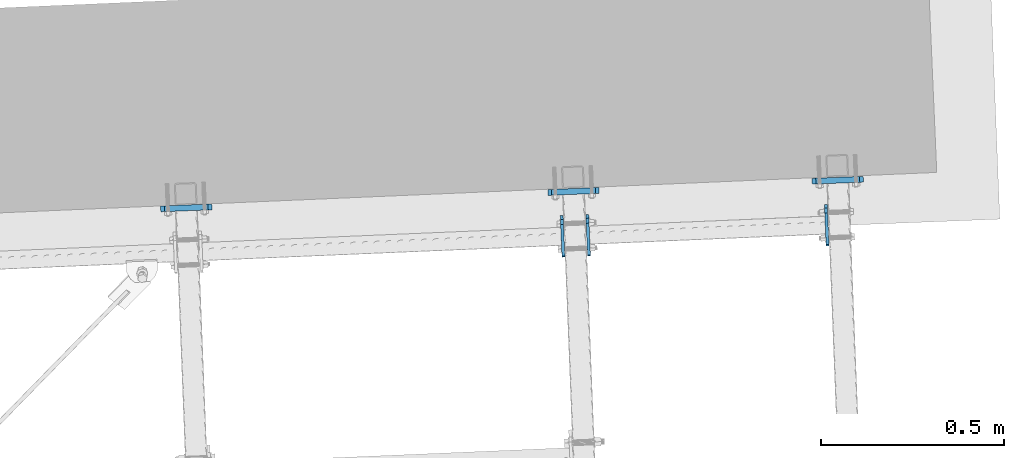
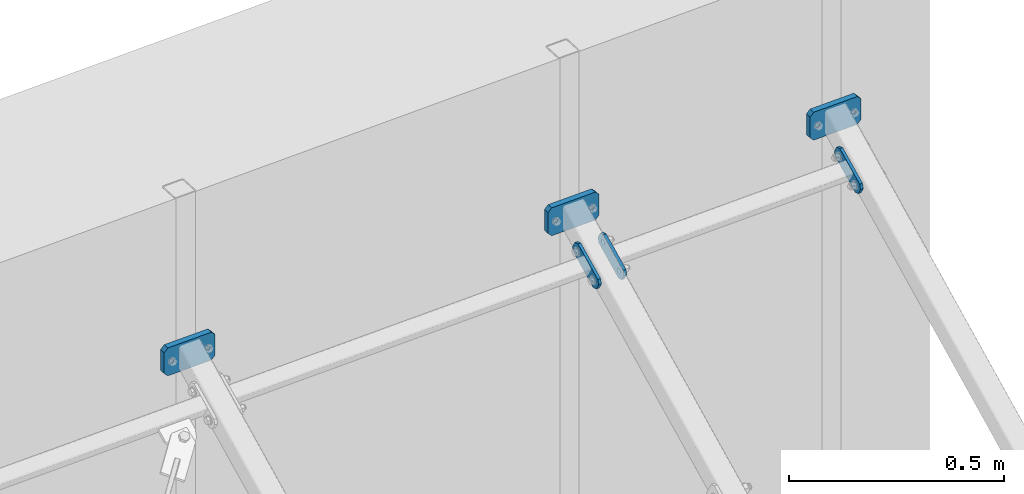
# One storey, part 67 of 288: 6 plates, 36 openings.
"""IFC2X3 building model written with IfcOpenShell, lengths in millimetres."""

import ifcopenshell
import ifcopenshell.guid

model = None  # the IFC model being written
_history = None  # IfcOwnerHistory: only IFC2X3 demands one
_inside = {}  # id of a spatial element -> (the spatial element, [elements in it])
_under = {}  # id of a project, library or spatial element -> (it, [spatial elements below it])
_declared = {}  # id of a project -> (the project, [libraries it declares])
_typed = {}  # id of a type object -> (the type object, [elements of that type])
_made_of = {}  # id of a material, layer set ... -> (it, [elements and type objects made of it])


def new_model(schema):
    """Start an empty IFC model of exactly this schema.

    Asked for "IFC4X3", IfcOpenShell would pick the latest addendum, in which some entities
    have other attributes; the version numbers below select the first issue.
    IFC2X3 requires an IfcOwnerHistory on every rooted entity: one is made here for all.
    """
    global model, _history
    if schema == "IFC4X3":
        model = ifcopenshell.file(schema_version=(4, 3, 0, 0))
    else:
        model = ifcopenshell.file(schema=schema)
    _inside.clear()
    _under.clear()
    _declared.clear()
    _typed.clear()
    _made_of.clear()
    _history = None
    if model.schema == "IFC2X3":
        org = make("IfcOrganization", Name="unknown")
        user = make(
            "IfcPersonAndOrganization",
            ThePerson=make("IfcPerson", FamilyName="unknown"),
            TheOrganization=org,
        )
        app = make(
            "IfcApplication",
            ApplicationDeveloper=org,
            Version="unknown",
            ApplicationFullName="unknown",
            ApplicationIdentifier="unknown",
        )
        _history = make(
            "IfcOwnerHistory",
            OwningUser=user,
            OwningApplication=app,
            ChangeAction="ADDED",
            CreationDate=0,
        )
    return model


def make(cls, **values):
    """One entity of the class cls with the attributes given. An attribute that is None is left unset."""
    return model.create_entity(
        cls, **{name: value for name, value in values.items() if value is not None}
    )


def entity(cls, *values):
    """Any entity or typed value of the class cls, its attributes in the order of the schema. None: left unset."""
    e = model.create_entity(cls)
    for i, value in enumerate(values):
        if value is not None:
            e[i] = value
    return e


def rooted(cls, **values):
    """An entity with a GlobalId (a new one), such as an element, a storey or a relation."""
    return make(cls, GlobalId=ifcopenshell.guid.new(), OwnerHistory=_history, **values)


def si_unit(unit_type, name, prefix=None):
    """IfcSIUnit, for example si_unit("LENGTHUNIT", "METRE", prefix="MILLI")."""
    return make("IfcSIUnit", UnitType=unit_type, Prefix=prefix, Name=name)


def converted_unit(unit_type, name, factor, base, dimensions=None, offset=None):
    """IfcConversionBasedUnit, such as the inch: factor (a typed value) times the base unit."""
    return make(
        "IfcConversionBasedUnit"
        if offset is None
        else "IfcConversionBasedUnitWithOffset",
        ConversionOffset=offset,
        Dimensions=None
        if dimensions is None
        else entity("IfcDimensionalExponents", *dimensions),
        UnitType=unit_type,
        Name=name,
        ConversionFactor=make(
            "IfcMeasureWithUnit", ValueComponent=factor, UnitComponent=base
        ),
    )


def assignment(units):
    """IfcUnitAssignment: the units of a project."""
    return None if units is None else make("IfcUnitAssignment", Units=units)


def point(xyz):
    """IfcCartesianPoint."""
    return None if xyz is None else make("IfcCartesianPoint", Coordinates=xyz)


def direction(xyz):
    """IfcDirection."""
    return None if xyz is None else make("IfcDirection", DirectionRatios=xyz)


def frame(location, z_axis=None, x_axis=None):
    """IfcAxis2Placement3D, a coordinate frame: its origin and axes. An axis left out is left unset."""
    return make(
        "IfcAxis2Placement3D",
        Location=point(location),
        Axis=direction(z_axis),
        RefDirection=direction(x_axis),
    )


def frame_2d(location, x_axis=None):
    """IfcAxis2Placement2D, a coordinate frame in the plane: its origin and x axis."""
    return make(
        "IfcAxis2Placement2D", Location=point(location), RefDirection=direction(x_axis)
    )


def origin():
    """The frame at (0, 0, 0) with its axes left unset."""
    return frame((0.0, 0.0, 0.0))


def origin_with_axes():
    """The frame at (0, 0, 0) with the z axis (0, 0, 1) and the x axis (1, 0, 0) written out."""
    return frame((0.0, 0.0, 0.0), z_axis=(0.0, 0.0, 1.0), x_axis=(1.0, 0.0, 0.0))


def origin_2d_with_axis():
    """The frame at (0, 0) in the plane with the x axis (1, 0) written out."""
    return frame_2d((0.0, 0.0), x_axis=(1.0, 0.0))


def place(relative_to, where):
    """IfcLocalPlacement: puts the frame where relative to a parent placement (None: the world)."""
    return make(
        "IfcLocalPlacement", PlacementRelTo=relative_to, RelativePlacement=where
    )


def context(
    kind, dimensions, precision=None, world=None, true_north=None, identifier=None
):
    """IfcGeometricRepresentationContext, for example the 3D "Model" context."""
    return make(
        "IfcGeometricRepresentationContext",
        ContextIdentifier=identifier,
        ContextType=kind,
        CoordinateSpaceDimension=dimensions,
        Precision=precision,
        WorldCoordinateSystem=world,
        TrueNorth=true_north,
    )


def project(units=None, contexts=None):
    """IfcProject with its units and contexts."""
    return rooted(
        "IfcProject",
        Name="project",
        RepresentationContexts=contexts,
        UnitsInContext=assignment(units),
    )


def spatial(cls, under=None, at=None, **own):
    """A site, building, storey or space (cls), placed at a placement, below another one or the project."""
    s = rooted(cls, ObjectPlacement=at, **own)
    if under is not None:
        _under.setdefault(under.id(), (under, []))[1].append(s)
    return s


def polyline(points):
    """IfcPolyline through the points."""
    return make("IfcPolyline", Points=[point(p) for p in points])


def circle_curve(where, radius):
    """IfcCircle in the frame where."""
    return make("IfcCircle", Position=where, Radius=radius)


def line_curve(start, along, magnitude):
    """IfcLine from a point along a vector."""
    return make(
        "IfcLine",
        Pnt=point(start),
        Dir=make("IfcVector", Orientation=direction(along), Magnitude=magnitude),
    )


def trimmed(basis, trim1, trim2, sense, master):
    """IfcTrimmedCurve: the piece of a basis curve between two trims."""
    return make(
        "IfcTrimmedCurve",
        BasisCurve=basis,
        Trim1=trim1,
        Trim2=trim2,
        SenseAgreement=sense,
        MasterRepresentation=master,
    )


def segment(curve, same_sense, transition):
    """IfcCompositeCurveSegment."""
    return make(
        "IfcCompositeCurveSegment",
        Transition=transition,
        SameSense=same_sense,
        ParentCurve=curve,
    )


def composite_curve(segments, self_intersect=None):
    """IfcCompositeCurve: segments joined end to end."""
    return make("IfcCompositeCurve", Segments=segments, SelfIntersect=self_intersect)


def profile(cls, at=None, kind="AREA", **sizes):
    """A parametric profile (cls). Its sizes go by their IFC names, for example OverallWidth=200.0."""
    return make(cls, ProfileType=kind, Position=at, **sizes)


def circle(**sizes):
    """IfcCircleProfileDef."""
    return profile("IfcCircleProfileDef", **sizes)


def outline(outer, holes=None, kind="AREA"):
    """IfcArbitraryClosedProfileDef: a profile drawn as a closed curve; with holes, ...WithVoids."""
    if holes is None:
        return make("IfcArbitraryClosedProfileDef", ProfileType=kind, OuterCurve=outer)
    return make(
        "IfcArbitraryProfileDefWithVoids",
        ProfileType=kind,
        OuterCurve=outer,
        InnerCurves=holes,
    )


def extrude(swept, where, along, depth):
    """IfcExtrudedAreaSolid: the profile swept, set in the frame where, extruded along a direction by depth."""
    return make(
        "IfcExtrudedAreaSolid",
        SweptArea=swept,
        Position=where,
        ExtrudedDirection=direction(along),
        Depth=depth,
    )


def shape(context_of_items, identifier, shape_type, items):
    """IfcShapeRepresentation: the items that make up one representation, for example the "Body"."""
    return make(
        "IfcShapeRepresentation",
        ContextOfItems=context_of_items,
        RepresentationIdentifier=identifier,
        RepresentationType=shape_type,
        Items=items,
    )


def material(Name=None, Category=None):
    """IfcMaterial."""
    return make("IfcMaterial", Name=Name, Category=Category)


def layer(
    of_material, thickness, ventilated=None, Name=None, Category=None, Priority=None
):
    """IfcMaterialLayer: one layer of a wall or slab, of a material (None: an air gap)."""
    return make(
        "IfcMaterialLayer",
        Material=of_material,
        LayerThickness=thickness,
        IsVentilated=ventilated,
        Name=Name,
        Category=Category,
        Priority=Priority,
    )


def layer_set(layers, Name=None):
    """IfcMaterialLayerSet."""
    return make("IfcMaterialLayerSet", MaterialLayers=layers, LayerSetName=Name)


def made_of(thing, what):
    """Note that an element or type object is made of a material, layer set ...; save() writes the relation."""
    if what is not None:
        _made_of.setdefault(what.id(), (what, []))[1].append(thing)
    return thing


def element(
    cls,
    number,
    at=None,
    inside=None,
    cuts=None,
    type_object=None,
    material=None,
    context=None,
    identifier="Body",
    shape_type=None,
    held_by="IfcProductDefinitionShape",
    body=None,
    shapes=None,
    **own,
):
    """One element of the class cls, such as IfcWall. Its Tag is "e" and its number.

    at: its placement. inside: the storey or other place that contains it. cuts: it is an
    opening in that element (IfcRelVoidsElement). A single representation is given by context,
    identifier, shape_type and body (its items); several are given by shapes. held_by: the class
    of the entity that holds the representations. save() writes the other relations.
    """
    e = rooted(cls, Tag="e%d" % number, ObjectPlacement=at, **own)
    if body is not None:
        shapes = [shape(context, identifier, shape_type, body)]
    if shapes is not None:
        e.Representation = make(held_by, Representations=shapes)
    if inside is not None:
        _inside.setdefault(inside.id(), (inside, []))[1].append(e)
    if cuts is not None:
        rooted(
            "IfcRelVoidsElement", RelatingBuildingElement=cuts, RelatedOpeningElement=e
        )
    if type_object is not None:
        _typed.setdefault(type_object.id(), (type_object, []))[1].append(e)
    return made_of(e, material)


def aggregate(whole, parts):
    """IfcRelAggregates: a whole, such as a stair, and the parts it consists of."""
    return rooted("IfcRelAggregates", RelatingObject=whole, RelatedObjects=parts)


def save(model, path):
    """Write the relations noted so far, then the file.

    IfcRelAggregates (storeys below a building ...), IfcRelContainedInSpatialStructure (elements
    in a storey), IfcRelDefinesByType, IfcRelAssociatesMaterial and IfcRelDeclares: one each for
    every whole, place, type object, material and project.
    """
    for whole, parts in _under.values():
        aggregate(whole, parts)
    for where, things in _inside.values():
        rooted(
            "IfcRelContainedInSpatialStructure",
            RelatedElements=things,
            RelatingStructure=where,
        )
    for kind, things in _typed.values():
        rooted("IfcRelDefinesByType", RelatedObjects=things, RelatingType=kind)
    for what, things in _made_of.values():
        rooted("IfcRelAssociatesMaterial", RelatedObjects=things, RelatingMaterial=what)
    for by, libraries in _declared.values():
        rooted("IfcRelDeclares", RelatingContext=by, RelatedDefinitions=libraries)
    model.write(path)


model = new_model("IFC2X3")

# Units and contexts
model_context = context("Model", 3, precision=1e-09, world=origin_with_axes())
ifc_project = project(units=[si_unit("LENGTHUNIT", "METRE", prefix="MILLI"), si_unit("AREAUNIT", "SQUARE_METRE"), si_unit("VOLUMEUNIT", "CUBIC_METRE"), converted_unit("PLANEANGLEUNIT", "DEGREE", entity("IfcPlaneAngleMeasure", 0.01745329), si_unit("PLANEANGLEUNIT", "RADIAN"), dimensions=[0, 0, 0, 0, 0, 0, 0])], contexts=[model_context])

# Site, building, storey
site_placement = place(None, origin_with_axes())
site = spatial("IfcSite", under=ifc_project, at=site_placement, Name="Remont ?wietlik?w nad MC w NCPP w Opolu", CompositionType="ELEMENT")
building_placement = place(site_placement, origin_with_axes())
building = spatial("IfcBuilding", under=site, at=building_placement, Name="Konstrukcja 1", CompositionType="ELEMENT")
storey_placement = place(building_placement, origin_with_axes())
storey = spatial("IfcBuildingStorey", under=building, at=storey_placement, Name="Default Storey", CompositionType="ELEMENT", Elevation=0.0)

# Plate, openings
ifc_material = material(Name="S235")
ifc_layer_1 = layer(ifc_material, 8.0)
ifc_layer_set_1 = layer_set([ifc_layer_1], Name="S235")
plate_1_placement = place(None, frame((9800.952796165, 15801.499793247, 1174.330477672), z_axis=(-0.999102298, -0.042361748, 0.000284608), x_axis=(0.021561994, -0.502733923, 0.864172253)))
plate_1 = element("IfcPlate", 1, at=plate_1_placement, inside=storey, material=ifc_layer_set_1, Name="-", ObjectType="-", context=model_context, shape_type="SweptSolid", body=[
    extrude(outline(polyline([(0.0, 0.0), (40.0, 0.0), (40.0, 120.0), (0.0, 120.0), (0.0, 0.0)])), origin_with_axes(), (0.0, 0.0, 1.0), 8.0),
])
opening_1_placement = place(plate_1_placement, frame((0.0, 0.0, -0.01), z_axis=(0.0, 0.0, 1.0), x_axis=(1.0, 0.0, 0.0)))
element("IfcOpeningElement", 2, at=opening_1_placement, cuts=plate_1, ObjectType="Opening", context=model_context, shape_type="SweptSolid", body=[
    extrude(outline(composite_curve([segment(trimmed(line_curve((0.0, 0.0), (1.0, 0.0), 10.0), [point((0.0, 0.0))], [point((10.0, 0.0))], True, "CARTESIAN"), True, "CONTINUOUS"), segment(trimmed(circle_curve(frame_2d((10.0, 10.0), x_axis=(-1.0, 0.0)), 10.0), [point((10.0, 0.0))], [point((0.0, 10.0))], False, "CARTESIAN"), True, "CONTINUOUS"), segment(trimmed(line_curve((0.0, 10.0), (0.0, -1.0), 10.0), [point((0.0, 10.0))], [point((0.0, 0.0))], True, "CARTESIAN"), True, "CONTINUOUS")], self_intersect=False)), origin(), (0.0, 0.0, 1.0), 8.02),
])
opening_2_placement = place(plate_1_placement, frame((0.0, 0.0, -0.01), z_axis=(0.0, 0.0, 1.0), x_axis=(1.0, 0.0, 0.0)))
element("IfcOpeningElement", 3, at=opening_2_placement, cuts=plate_1, ObjectType="Opening", context=model_context, shape_type="SweptSolid", body=[
    extrude(outline(composite_curve([segment(trimmed(line_curve((40.0, 0.0), (0.0, 1.0), 10.0), [point((40.0, 0.0))], [point((40.0, 10.0))], True, "CARTESIAN"), True, "CONTINUOUS"), segment(trimmed(circle_curve(frame_2d((30.0, 10.0), x_axis=(-1.0, 0.0)), 10.0), [point((40.0, 10.0))], [point((30.0, 0.0))], False, "CARTESIAN"), True, "CONTINUOUS"), segment(trimmed(line_curve((30.0, 0.0), (1.0, 0.0), 10.0), [point((30.0, 0.0))], [point((40.0, 0.0))], True, "CARTESIAN"), True, "CONTINUOUS")], self_intersect=False)), origin(), (0.0, 0.0, 1.0), 8.02),
])
opening_3_placement = place(plate_1_placement, frame((0.0, 0.0, -0.01), z_axis=(0.0, 0.0, 1.0), x_axis=(1.0, 0.0, 0.0)))
element("IfcOpeningElement", 4, at=opening_3_placement, cuts=plate_1, ObjectType="Opening", context=model_context, shape_type="SweptSolid", body=[
    extrude(outline(composite_curve([segment(trimmed(line_curve((40.0, 120.0), (-1.0, 0.0), 10.0), [point((40.0, 120.0))], [point((30.0, 120.0))], True, "CARTESIAN"), True, "CONTINUOUS"), segment(trimmed(circle_curve(frame_2d((30.0, 110.0), x_axis=(-1.0, 0.0)), 10.0), [point((30.0, 120.0))], [point((40.0, 110.0))], False, "CARTESIAN"), True, "CONTINUOUS"), segment(trimmed(line_curve((40.0, 110.0), (0.0, 1.0), 10.0), [point((40.0, 110.0))], [point((40.0, 120.0))], True, "CARTESIAN"), True, "CONTINUOUS")], self_intersect=False)), origin(), (0.0, 0.0, 1.0), 8.02),
])
opening_4_placement = place(plate_1_placement, frame((0.0, 0.0, -0.01), z_axis=(0.0, 0.0, 1.0), x_axis=(1.0, 0.0, 0.0)))
element("IfcOpeningElement", 5, at=opening_4_placement, cuts=plate_1, ObjectType="Opening", context=model_context, shape_type="SweptSolid", body=[
    extrude(outline(composite_curve([segment(trimmed(line_curve((0.0, 120.0), (0.0, -1.0), 10.0), [point((0.0, 120.0))], [point((0.0, 110.0))], True, "CARTESIAN"), True, "CONTINUOUS"), segment(trimmed(circle_curve(frame_2d((10.0, 110.0), x_axis=(-1.0, 0.0)), 10.0), [point((0.0, 110.0))], [point((10.0, 120.0))], False, "CARTESIAN"), True, "CONTINUOUS"), segment(trimmed(line_curve((10.0, 120.0), (-1.0, 0.0), 10.0), [point((10.0, 120.0))], [point((0.0, 120.0))], True, "CARTESIAN"), True, "CONTINUOUS")], self_intersect=False)), origin(), (0.0, 0.0, 1.0), 8.02),
])
opening_5_placement = place(plate_1_placement, frame((20.0, 60.0, -0.5), z_axis=(0.0, 0.0, 1.0), x_axis=(1.0, 0.0, 0.0)))
element("IfcOpeningElement", 6, at=opening_5_placement, cuts=plate_1, ObjectType="Opening", context=model_context, shape_type="SweptSolid", body=[
    extrude(circle(Radius=7.001, at=frame_2d((0.0, 40.0), x_axis=(1.0, 0.0))), origin(), (0.0, 0.0, 1.0), 9.0),
])
opening_6_placement = place(plate_1_placement, frame((20.0, 60.0, -0.5), z_axis=(0.0, 0.0, 1.0), x_axis=(1.0, 0.0, 0.0)))
element("IfcOpeningElement", 7, at=opening_6_placement, cuts=plate_1, ObjectType="Opening", context=model_context, shape_type="SweptSolid", body=[
    extrude(circle(Radius=7.001, at=frame_2d((0.0, -40.0), x_axis=(1.0, 0.0))), origin(), (0.0, 0.0, 1.0), 9.0),
])

plate_2_placement = place(None, frame((9731.015635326, 15798.534470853, 1174.350400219), z_axis=(-0.999102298, -0.042361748, 0.000284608), x_axis=(0.021561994, -0.502733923, 0.864172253)))
plate_2 = element("IfcPlate", 8, at=plate_2_placement, inside=storey, material=ifc_layer_set_1, Name="-", ObjectType="-", context=model_context, shape_type="SweptSolid", body=[
    extrude(outline(polyline([(0.0, 0.0), (40.0, 0.0), (40.0, 120.0), (0.0, 120.0), (0.0, 0.0)])), origin_with_axes(), (0.0, 0.0, 1.0), 8.0),
])
opening_7_placement = place(plate_2_placement, frame((0.0, 0.0, -0.01), z_axis=(0.0, 0.0, 1.0), x_axis=(1.0, 0.0, 0.0)))
element("IfcOpeningElement", 9, at=opening_7_placement, cuts=plate_2, ObjectType="Opening", context=model_context, shape_type="SweptSolid", body=[
    extrude(outline(composite_curve([segment(trimmed(line_curve((40.0, 0.0), (0.0, 1.0), 10.0), [point((40.0, 0.0))], [point((40.0, 10.0))], True, "CARTESIAN"), True, "CONTINUOUS"), segment(trimmed(circle_curve(frame_2d((30.0, 10.0), x_axis=(-1.0, 0.0)), 10.0), [point((40.0, 10.0))], [point((30.0, 0.0))], False, "CARTESIAN"), True, "CONTINUOUS"), segment(trimmed(line_curve((30.0, 0.0), (1.0, 0.0), 10.0), [point((30.0, 0.0))], [point((40.0, 0.0))], True, "CARTESIAN"), True, "CONTINUOUS")], self_intersect=False)), origin(), (0.0, 0.0, 1.0), 8.02),
])
opening_8_placement = place(plate_2_placement, frame((0.0, 0.0, -0.01), z_axis=(0.0, 0.0, 1.0), x_axis=(1.0, 0.0, 0.0)))
element("IfcOpeningElement", 10, at=opening_8_placement, cuts=plate_2, ObjectType="Opening", context=model_context, shape_type="SweptSolid", body=[
    extrude(outline(composite_curve([segment(trimmed(line_curve((0.0, 0.0), (1.0, 0.0), 10.0), [point((0.0, 0.0))], [point((10.0, 0.0))], True, "CARTESIAN"), True, "CONTINUOUS"), segment(trimmed(circle_curve(frame_2d((10.0, 10.0), x_axis=(-1.0, 0.0)), 10.0), [point((10.0, 0.0))], [point((0.0, 10.0))], False, "CARTESIAN"), True, "CONTINUOUS"), segment(trimmed(line_curve((0.0, 10.0), (0.0, -1.0), 10.0), [point((0.0, 10.0))], [point((0.0, 0.0))], True, "CARTESIAN"), True, "CONTINUOUS")], self_intersect=False)), origin(), (0.0, 0.0, 1.0), 8.02),
])
opening_9_placement = place(plate_2_placement, frame((0.0, 0.0, -0.01), z_axis=(0.0, 0.0, 1.0), x_axis=(1.0, 0.0, 0.0)))
element("IfcOpeningElement", 11, at=opening_9_placement, cuts=plate_2, ObjectType="Opening", context=model_context, shape_type="SweptSolid", body=[
    extrude(outline(composite_curve([segment(trimmed(line_curve((40.0, 120.0), (-1.0, 0.0), 10.0), [point((40.0, 120.0))], [point((30.0, 120.0))], True, "CARTESIAN"), True, "CONTINUOUS"), segment(trimmed(circle_curve(frame_2d((30.0, 110.0), x_axis=(-1.0, 0.0)), 10.0), [point((30.0, 120.0))], [point((40.0, 110.0))], False, "CARTESIAN"), True, "CONTINUOUS"), segment(trimmed(line_curve((40.0, 110.0), (0.0, 1.0), 10.0), [point((40.0, 110.0))], [point((40.0, 120.0))], True, "CARTESIAN"), True, "CONTINUOUS")], self_intersect=False)), origin(), (0.0, 0.0, 1.0), 8.02),
])
opening_10_placement = place(plate_2_placement, frame((0.0, 0.0, -0.01), z_axis=(0.0, 0.0, 1.0), x_axis=(1.0, 0.0, 0.0)))
element("IfcOpeningElement", 12, at=opening_10_placement, cuts=plate_2, ObjectType="Opening", context=model_context, shape_type="SweptSolid", body=[
    extrude(outline(composite_curve([segment(trimmed(line_curve((0.0, 120.0), (0.0, -1.0), 10.0), [point((0.0, 120.0))], [point((0.0, 110.0))], True, "CARTESIAN"), True, "CONTINUOUS"), segment(trimmed(circle_curve(frame_2d((10.0, 110.0), x_axis=(-1.0, 0.0)), 10.0), [point((0.0, 110.0))], [point((10.0, 120.0))], False, "CARTESIAN"), True, "CONTINUOUS"), segment(trimmed(line_curve((10.0, 120.0), (-1.0, 0.0), 10.0), [point((10.0, 120.0))], [point((0.0, 120.0))], True, "CARTESIAN"), True, "CONTINUOUS")], self_intersect=False)), origin(), (0.0, 0.0, 1.0), 8.02),
])
opening_11_placement = place(plate_2_placement, frame((20.0, 60.0, -0.5), z_axis=(0.0, 0.0, 1.0), x_axis=(1.0, 0.0, 0.0)))
element("IfcOpeningElement", 13, at=opening_11_placement, cuts=plate_2, ObjectType="Opening", context=model_context, shape_type="SweptSolid", body=[
    extrude(circle(Radius=7.001, at=frame_2d((0.0, 40.0), x_axis=(1.0, 0.0))), origin(), (0.0, 0.0, 1.0), 9.0),
])
opening_12_placement = place(plate_2_placement, frame((20.0, 60.0, -0.5), z_axis=(0.0, 0.0, 1.0), x_axis=(1.0, 0.0, 0.0)))
element("IfcOpeningElement", 14, at=opening_12_placement, cuts=plate_2, ObjectType="Opening", context=model_context, shape_type="SweptSolid", body=[
    extrude(circle(Radius=7.001, at=frame_2d((0.0, -40.0), x_axis=(1.0, 0.0))), origin(), (0.0, 0.0, 1.0), 9.0),
])

plate_3_placement = place(None, frame((10453.514337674, 15829.168279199, 1174.144586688), z_axis=(-0.999102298, -0.042361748, 0.000284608), x_axis=(0.021561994, -0.502733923, 0.864172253)))
plate_3 = element("IfcPlate", 15, at=plate_3_placement, inside=storey, material=ifc_layer_set_1, Name="-", ObjectType="-", context=model_context, shape_type="SweptSolid", body=[
    extrude(outline(polyline([(0.0, 0.0), (40.0, 0.0), (40.0, 120.0), (0.0, 120.0), (0.0, 0.0)])), origin_with_axes(), (0.0, 0.0, 1.0), 8.0),
])
opening_13_placement = place(plate_3_placement, frame((0.0, 0.0, -0.01), z_axis=(0.0, 0.0, 1.0), x_axis=(1.0, 0.0, 0.0)))
element("IfcOpeningElement", 16, at=opening_13_placement, cuts=plate_3, ObjectType="Opening", context=model_context, shape_type="SweptSolid", body=[
    extrude(outline(composite_curve([segment(trimmed(line_curve((40.0, 0.0), (0.0, 1.0), 10.0), [point((40.0, 0.0))], [point((40.0, 10.0))], True, "CARTESIAN"), True, "CONTINUOUS"), segment(trimmed(circle_curve(frame_2d((30.0, 10.0), x_axis=(-1.0, 0.0)), 10.0), [point((40.0, 10.0))], [point((30.0, 0.0))], False, "CARTESIAN"), True, "CONTINUOUS"), segment(trimmed(line_curve((30.0, 0.0), (1.0, 0.0), 10.0), [point((30.0, 0.0))], [point((40.0, 0.0))], True, "CARTESIAN"), True, "CONTINUOUS")], self_intersect=False)), origin(), (0.0, 0.0, 1.0), 8.02),
])
opening_14_placement = place(plate_3_placement, frame((0.0, 0.0, -0.01), z_axis=(0.0, 0.0, 1.0), x_axis=(1.0, 0.0, 0.0)))
element("IfcOpeningElement", 17, at=opening_14_placement, cuts=plate_3, ObjectType="Opening", context=model_context, shape_type="SweptSolid", body=[
    extrude(outline(composite_curve([segment(trimmed(line_curve((0.0, 0.0), (1.0, 0.0), 10.0), [point((0.0, 0.0))], [point((10.0, 0.0))], True, "CARTESIAN"), True, "CONTINUOUS"), segment(trimmed(circle_curve(frame_2d((10.0, 10.0), x_axis=(-1.0, 0.0)), 10.0), [point((10.0, 0.0))], [point((0.0, 10.0))], False, "CARTESIAN"), True, "CONTINUOUS"), segment(trimmed(line_curve((0.0, 10.0), (0.0, -1.0), 10.0), [point((0.0, 10.0))], [point((0.0, 0.0))], True, "CARTESIAN"), True, "CONTINUOUS")], self_intersect=False)), origin(), (0.0, 0.0, 1.0), 8.02),
])
opening_15_placement = place(plate_3_placement, frame((0.0, 0.0, -0.01), z_axis=(0.0, 0.0, 1.0), x_axis=(1.0, 0.0, 0.0)))
element("IfcOpeningElement", 18, at=opening_15_placement, cuts=plate_3, ObjectType="Opening", context=model_context, shape_type="SweptSolid", body=[
    extrude(outline(composite_curve([segment(trimmed(line_curve((40.0, 120.0), (-1.0, 0.0), 10.0), [point((40.0, 120.0))], [point((30.0, 120.0))], True, "CARTESIAN"), True, "CONTINUOUS"), segment(trimmed(circle_curve(frame_2d((30.0, 110.0), x_axis=(-1.0, 0.0)), 10.0), [point((30.0, 120.0))], [point((40.0, 110.0))], False, "CARTESIAN"), True, "CONTINUOUS"), segment(trimmed(line_curve((40.0, 110.0), (0.0, 1.0), 10.0), [point((40.0, 110.0))], [point((40.0, 120.0))], True, "CARTESIAN"), True, "CONTINUOUS")], self_intersect=False)), origin(), (0.0, 0.0, 1.0), 8.02),
])
opening_16_placement = place(plate_3_placement, frame((0.0, 0.0, -0.01), z_axis=(0.0, 0.0, 1.0), x_axis=(1.0, 0.0, 0.0)))
element("IfcOpeningElement", 19, at=opening_16_placement, cuts=plate_3, ObjectType="Opening", context=model_context, shape_type="SweptSolid", body=[
    extrude(outline(composite_curve([segment(trimmed(line_curve((0.0, 120.0), (0.0, -1.0), 10.0), [point((0.0, 120.0))], [point((0.0, 110.0))], True, "CARTESIAN"), True, "CONTINUOUS"), segment(trimmed(circle_curve(frame_2d((10.0, 110.0), x_axis=(-1.0, 0.0)), 10.0), [point((0.0, 110.0))], [point((10.0, 120.0))], False, "CARTESIAN"), True, "CONTINUOUS"), segment(trimmed(line_curve((10.0, 120.0), (-1.0, 0.0), 10.0), [point((10.0, 120.0))], [point((0.0, 120.0))], True, "CARTESIAN"), True, "CONTINUOUS")], self_intersect=False)), origin(), (0.0, 0.0, 1.0), 8.02),
])
opening_17_placement = place(plate_3_placement, frame((12.999, 100.0, 8.5), z_axis=(0.0, 0.0, 1.0), x_axis=(1.0, 0.0, 0.0)))
element("IfcOpeningElement", 20, at=opening_17_placement, cuts=plate_3, ObjectType="Opening", context=model_context, shape_type="SweptSolid", body=[
    extrude(circle(Radius=7.001, at=frame_2d((7.001, 0.0), x_axis=(1.0, 0.0))), origin(), (0.0, 0.0, -1.0), 9.0),
])
opening_18_placement = place(plate_3_placement, frame((12.999, 20.0, 8.5), z_axis=(0.0, 0.0, 1.0), x_axis=(1.0, 0.0, 0.0)))
element("IfcOpeningElement", 21, at=opening_18_placement, cuts=plate_3, ObjectType="Opening", context=model_context, shape_type="SweptSolid", body=[
    extrude(circle(Radius=7.001, at=frame_2d((7.001, 0.0), x_axis=(1.0, 0.0))), origin(), (0.0, 0.0, -1.0), 9.0),
])

ifc_layer_2 = layer(ifc_material, 16.0)
ifc_layer_set_2 = layer_set([ifc_layer_2], Name="S235")
plate_4_placement = place(None, frame((8766.288773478, 15912.973330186, 1326.553510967), z_axis=(-0.039393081, 0.999223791, 0.0), x_axis=(0.0, 0.0, -1.0)))
plate_4 = element("IfcPlate", 22, at=plate_4_placement, inside=storey, material=ifc_layer_set_2, Name="Baseplate", ObjectType="Baseplate", context=model_context, shape_type="SweptSolid", body=[
    extrude(outline(polyline([(0.0, 0.0), (79.430667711, 0.0), (79.430667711, 140.0), (0.0, 140.0), (0.0, 0.0)])), origin_with_axes(), (0.0, 0.0, 1.0), 16.0),
])
opening_19_placement = place(plate_4_placement, frame((0.0, 0.0, -0.01), z_axis=(0.0, 0.0, 1.0), x_axis=(1.0, 0.0, 0.0)))
element("IfcOpeningElement", 23, at=opening_19_placement, cuts=plate_4, ObjectType="Opening", context=model_context, shape_type="SweptSolid", body=[
    extrude(outline(composite_curve([segment(trimmed(line_curve((0.0, 140.0), (0.0, -1.0), 10.0), [point((0.0, 140.0))], [point((0.0, 130.0))], True, "CARTESIAN"), True, "CONTINUOUS"), segment(trimmed(circle_curve(frame_2d((10.0, 130.0), x_axis=(-1.0, 0.0)), 10.0), [point((0.0, 130.0))], [point((10.0, 140.0))], False, "CARTESIAN"), True, "CONTINUOUS"), segment(trimmed(line_curve((10.0, 140.0), (-1.0, 0.0), 10.0), [point((10.0, 140.0))], [point((0.0, 140.0))], True, "CARTESIAN"), True, "CONTINUOUS")], self_intersect=False)), origin(), (0.0, 0.0, 1.0), 16.02),
])
opening_20_placement = place(plate_4_placement, frame((0.0, 0.0, -0.01), z_axis=(0.0, 0.0, 1.0), x_axis=(1.0, 0.0, 0.0)))
element("IfcOpeningElement", 24, at=opening_20_placement, cuts=plate_4, ObjectType="Opening", context=model_context, shape_type="SweptSolid", body=[
    extrude(outline(composite_curve([segment(trimmed(line_curve((0.0, 0.0), (1.0, 0.0), 10.0), [point((0.0, 0.0))], [point((10.0, 0.0))], True, "CARTESIAN"), True, "CONTINUOUS"), segment(trimmed(circle_curve(frame_2d((10.0, 10.0), x_axis=(-1.0, 0.0)), 10.0), [point((10.0, 0.0))], [point((0.0, 10.0))], False, "CARTESIAN"), True, "CONTINUOUS"), segment(trimmed(line_curve((0.0, 10.0), (0.0, -1.0), 10.0), [point((0.0, 10.0))], [point((0.0, 0.0))], True, "CARTESIAN"), True, "CONTINUOUS")], self_intersect=False)), origin(), (0.0, 0.0, 1.0), 16.02),
])
opening_21_placement = place(plate_4_placement, frame((0.0, 0.0, -0.01), z_axis=(0.0, 0.0, 1.0), x_axis=(1.0, 0.0, 0.0)))
element("IfcOpeningElement", 25, at=opening_21_placement, cuts=plate_4, ObjectType="Opening", context=model_context, shape_type="SweptSolid", body=[
    extrude(outline(composite_curve([segment(trimmed(line_curve((79.430667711, 0.0), (0.0, 1.0), 10.0), [point((79.430667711, 0.0))], [point((79.430667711, 10.0))], True, "CARTESIAN"), True, "CONTINUOUS"), segment(trimmed(circle_curve(frame_2d((69.430667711, 10.0), x_axis=(-1.0, 0.0)), 10.0), [point((79.430667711, 10.0))], [point((69.430667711, 0.0))], False, "CARTESIAN"), True, "CONTINUOUS"), segment(trimmed(line_curve((69.430667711, 0.0), (1.0, 0.0), 10.0), [point((69.430667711, 0.0))], [point((79.430667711, 0.0))], True, "CARTESIAN"), True, "CONTINUOUS")], self_intersect=False)), origin(), (0.0, 0.0, 1.0), 16.02),
])
opening_22_placement = place(plate_4_placement, frame((0.0, 0.0, -0.01), z_axis=(0.0, 0.0, 1.0), x_axis=(1.0, 0.0, 0.0)))
element("IfcOpeningElement", 26, at=opening_22_placement, cuts=plate_4, ObjectType="Opening", context=model_context, shape_type="SweptSolid", body=[
    extrude(outline(composite_curve([segment(trimmed(line_curve((79.430667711, 140.0), (-1.0, 0.0), 10.0), [point((79.430667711, 140.0))], [point((69.430667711, 140.0))], True, "CARTESIAN"), True, "CONTINUOUS"), segment(trimmed(circle_curve(frame_2d((69.430667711, 130.0), x_axis=(-1.0, 0.0)), 10.0), [point((69.430667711, 140.0))], [point((79.430667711, 130.0))], False, "CARTESIAN"), True, "CONTINUOUS"), segment(trimmed(line_curve((79.430667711, 130.0), (0.0, 1.0), 10.0), [point((79.430667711, 130.0))], [point((79.430667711, 140.0))], True, "CARTESIAN"), True, "CONTINUOUS")], self_intersect=False)), origin(), (0.0, 0.0, 1.0), 16.02),
])
opening_23_placement = place(plate_4_placement, frame((39.715333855, 20.0, 16.5), z_axis=(0.0, 0.0, -1.0), x_axis=(1.0, 0.0, 0.0)))
element("IfcOpeningElement", 27, at=opening_23_placement, cuts=plate_4, ObjectType="Opening", context=model_context, shape_type="SweptSolid", body=[
    extrude(circle(Radius=6.001, at=origin_2d_with_axis()), origin(), (0.0, 0.0, 1.0), 17.0),
])
opening_24_placement = place(plate_4_placement, frame((39.715333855, 120.0, 16.5), z_axis=(0.0, 0.0, -1.0), x_axis=(1.0, 0.0, 0.0)))
element("IfcOpeningElement", 28, at=opening_24_placement, cuts=plate_4, ObjectType="Opening", context=model_context, shape_type="SweptSolid", body=[
    extrude(circle(Radius=6.001, at=origin_2d_with_axis()), origin(), (0.0, 0.0, 1.0), 17.0),
])

plate_5_placement = place(None, frame((9825.337251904, 15957.876785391, 1327.071181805), z_axis=(-0.039393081, 0.999223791, 0.0), x_axis=(0.0, 0.0, -1.0)))
plate_5 = element("IfcPlate", 29, at=plate_5_placement, inside=storey, material=ifc_layer_set_2, Name="Baseplate", ObjectType="Baseplate", context=model_context, shape_type="SweptSolid", body=[
    extrude(outline(polyline([(0.0, 0.0), (79.438342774, 0.0), (79.438342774, 140.0), (0.0, 140.0), (0.0, 0.0)])), origin_with_axes(), (0.0, 0.0, 1.0), 16.0),
])
opening_25_placement = place(plate_5_placement, frame((0.0, 0.0, -0.01), z_axis=(0.0, 0.0, 1.0), x_axis=(1.0, 0.0, 0.0)))
element("IfcOpeningElement", 30, at=opening_25_placement, cuts=plate_5, ObjectType="Opening", context=model_context, shape_type="SweptSolid", body=[
    extrude(outline(composite_curve([segment(trimmed(line_curve((0.0, 140.0), (0.0, -1.0), 10.0), [point((0.0, 140.0))], [point((0.0, 130.0))], True, "CARTESIAN"), True, "CONTINUOUS"), segment(trimmed(circle_curve(frame_2d((10.0, 130.0), x_axis=(-1.0, 0.0)), 10.0), [point((0.0, 130.0))], [point((10.0, 140.0))], False, "CARTESIAN"), True, "CONTINUOUS"), segment(trimmed(line_curve((10.0, 140.0), (-1.0, 0.0), 10.0), [point((10.0, 140.0))], [point((0.0, 140.0))], True, "CARTESIAN"), True, "CONTINUOUS")], self_intersect=False)), origin(), (0.0, 0.0, 1.0), 16.02),
])
opening_26_placement = place(plate_5_placement, frame((0.0, 0.0, -0.01), z_axis=(0.0, 0.0, 1.0), x_axis=(1.0, 0.0, 0.0)))
element("IfcOpeningElement", 31, at=opening_26_placement, cuts=plate_5, ObjectType="Opening", context=model_context, shape_type="SweptSolid", body=[
    extrude(outline(composite_curve([segment(trimmed(line_curve((79.438342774, 140.0), (-1.0, 0.0), 10.0), [point((79.438342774, 140.0))], [point((69.438342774, 140.0))], True, "CARTESIAN"), True, "CONTINUOUS"), segment(trimmed(circle_curve(frame_2d((69.438342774, 130.0), x_axis=(-1.0, 0.0)), 10.0), [point((69.438342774, 140.0))], [point((79.438342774, 130.0))], False, "CARTESIAN"), True, "CONTINUOUS"), segment(trimmed(line_curve((79.438342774, 130.0), (0.0, 1.0), 10.0), [point((79.438342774, 130.0))], [point((79.438342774, 140.0))], True, "CARTESIAN"), True, "CONTINUOUS")], self_intersect=False)), origin(), (0.0, 0.0, 1.0), 16.02),
])
opening_27_placement = place(plate_5_placement, frame((0.0, 0.0, -0.01), z_axis=(0.0, 0.0, 1.0), x_axis=(1.0, 0.0, 0.0)))
element("IfcOpeningElement", 32, at=opening_27_placement, cuts=plate_5, ObjectType="Opening", context=model_context, shape_type="SweptSolid", body=[
    extrude(outline(composite_curve([segment(trimmed(line_curve((0.0, 0.0), (1.0, 0.0), 10.0), [point((0.0, 0.0))], [point((10.0, 0.0))], True, "CARTESIAN"), True, "CONTINUOUS"), segment(trimmed(circle_curve(frame_2d((10.0, 10.0), x_axis=(-1.0, 0.0)), 10.0), [point((10.0, 0.0))], [point((0.0, 10.0))], False, "CARTESIAN"), True, "CONTINUOUS"), segment(trimmed(line_curve((0.0, 10.0), (0.0, -1.0), 10.0), [point((0.0, 10.0))], [point((0.0, 0.0))], True, "CARTESIAN"), True, "CONTINUOUS")], self_intersect=False)), origin(), (0.0, 0.0, 1.0), 16.02),
])
opening_28_placement = place(plate_5_placement, frame((0.0, 0.0, -0.01), z_axis=(0.0, 0.0, 1.0), x_axis=(1.0, 0.0, 0.0)))
element("IfcOpeningElement", 33, at=opening_28_placement, cuts=plate_5, ObjectType="Opening", context=model_context, shape_type="SweptSolid", body=[
    extrude(outline(composite_curve([segment(trimmed(line_curve((79.438342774, 0.0), (0.0, 1.0), 10.0), [point((79.438342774, 0.0))], [point((79.438342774, 10.0))], True, "CARTESIAN"), True, "CONTINUOUS"), segment(trimmed(circle_curve(frame_2d((69.438342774, 10.0), x_axis=(-1.0, 0.0)), 10.0), [point((79.438342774, 10.0))], [point((69.438342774, 0.0))], False, "CARTESIAN"), True, "CONTINUOUS"), segment(trimmed(line_curve((69.438342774, 0.0), (1.0, 0.0), 10.0), [point((69.438342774, 0.0))], [point((79.438342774, 0.0))], True, "CARTESIAN"), True, "CONTINUOUS")], self_intersect=False)), origin(), (0.0, 0.0, 1.0), 16.02),
])
opening_29_placement = place(plate_5_placement, frame((39.719171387, 20.0, 16.5), z_axis=(0.0, 0.0, -1.0), x_axis=(1.0, 0.0, 0.0)))
element("IfcOpeningElement", 34, at=opening_29_placement, cuts=plate_5, ObjectType="Opening", context=model_context, shape_type="SweptSolid", body=[
    extrude(circle(Radius=6.001, at=origin_2d_with_axis()), origin(), (0.0, 0.0, 1.0), 17.0),
])
opening_30_placement = place(plate_5_placement, frame((39.719171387, 120.0, 16.5), z_axis=(0.0, 0.0, -1.0), x_axis=(1.0, 0.0, 0.0)))
element("IfcOpeningElement", 35, at=opening_30_placement, cuts=plate_5, ObjectType="Opening", context=model_context, shape_type="SweptSolid", body=[
    extrude(circle(Radius=6.001, at=origin_2d_with_axis()), origin(), (0.0, 0.0, 1.0), 17.0),
])

plate_6_placement = place(None, frame((10548.186976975, 15988.525477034, 1327.488897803), z_axis=(-0.039393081, 0.999223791, 0.0), x_axis=(0.0, 0.0, -1.0)))
plate_6 = element("IfcPlate", 36, at=plate_6_placement, inside=storey, material=ifc_layer_set_2, Name="Baseplate", ObjectType="Baseplate", context=model_context, shape_type="SweptSolid", body=[
    extrude(outline(polyline([(0.0, 0.0), (79.444537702, 0.0), (79.444537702, 140.0), (0.0, 140.0), (0.0, 0.0)])), origin_with_axes(), (0.0, 0.0, 1.0), 16.0),
])
opening_31_placement = place(plate_6_placement, frame((0.0, 0.0, -0.01), z_axis=(0.0, 0.0, 1.0), x_axis=(1.0, 0.0, 0.0)))
element("IfcOpeningElement", 37, at=opening_31_placement, cuts=plate_6, ObjectType="Opening", context=model_context, shape_type="SweptSolid", body=[
    extrude(outline(composite_curve([segment(trimmed(line_curve((0.0, 140.0), (0.0, -1.0), 10.0), [point((0.0, 140.0))], [point((0.0, 130.0))], True, "CARTESIAN"), True, "CONTINUOUS"), segment(trimmed(circle_curve(frame_2d((10.0, 130.0), x_axis=(-1.0, 0.0)), 10.0), [point((0.0, 130.0))], [point((10.0, 140.0))], False, "CARTESIAN"), True, "CONTINUOUS"), segment(trimmed(line_curve((10.0, 140.0), (-1.0, 0.0), 10.0), [point((10.0, 140.0))], [point((0.0, 140.0))], True, "CARTESIAN"), True, "CONTINUOUS")], self_intersect=False)), origin(), (0.0, 0.0, 1.0), 16.02),
])
opening_32_placement = place(plate_6_placement, frame((0.0, 0.0, -0.01), z_axis=(0.0, 0.0, 1.0), x_axis=(1.0, 0.0, 0.0)))
element("IfcOpeningElement", 38, at=opening_32_placement, cuts=plate_6, ObjectType="Opening", context=model_context, shape_type="SweptSolid", body=[
    extrude(outline(composite_curve([segment(trimmed(line_curve((0.0, 0.0), (1.0, 0.0), 10.0), [point((0.0, 0.0))], [point((10.0, 0.0))], True, "CARTESIAN"), True, "CONTINUOUS"), segment(trimmed(circle_curve(frame_2d((10.0, 10.0), x_axis=(-1.0, 0.0)), 10.0), [point((10.0, 0.0))], [point((0.0, 10.0))], False, "CARTESIAN"), True, "CONTINUOUS"), segment(trimmed(line_curve((0.0, 10.0), (0.0, -1.0), 10.0), [point((0.0, 10.0))], [point((0.0, 0.0))], True, "CARTESIAN"), True, "CONTINUOUS")], self_intersect=False)), origin(), (0.0, 0.0, 1.0), 16.02),
])
opening_33_placement = place(plate_6_placement, frame((0.0, 0.0, -0.01), z_axis=(0.0, 0.0, 1.0), x_axis=(1.0, 0.0, 0.0)))
element("IfcOpeningElement", 39, at=opening_33_placement, cuts=plate_6, ObjectType="Opening", context=model_context, shape_type="SweptSolid", body=[
    extrude(outline(composite_curve([segment(trimmed(line_curve((79.444537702, 0.0), (0.0, 1.0), 10.0), [point((79.444537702, 0.0))], [point((79.444537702, 10.0))], True, "CARTESIAN"), True, "CONTINUOUS"), segment(trimmed(circle_curve(frame_2d((69.444537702, 10.0), x_axis=(-1.0, 0.0)), 10.0), [point((79.444537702, 10.0))], [point((69.444537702, 0.0))], False, "CARTESIAN"), True, "CONTINUOUS"), segment(trimmed(line_curve((69.444537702, 0.0), (1.0, 0.0), 10.0), [point((69.444537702, 0.0))], [point((79.444537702, 0.0))], True, "CARTESIAN"), True, "CONTINUOUS")], self_intersect=False)), origin(), (0.0, 0.0, 1.0), 16.02),
])
opening_34_placement = place(plate_6_placement, frame((0.0, 0.0, -0.01), z_axis=(0.0, 0.0, 1.0), x_axis=(1.0, 0.0, 0.0)))
element("IfcOpeningElement", 40, at=opening_34_placement, cuts=plate_6, ObjectType="Opening", context=model_context, shape_type="SweptSolid", body=[
    extrude(outline(composite_curve([segment(trimmed(line_curve((79.444537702, 140.0), (-1.0, 0.0), 10.0), [point((79.444537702, 140.0))], [point((69.444537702, 140.0))], True, "CARTESIAN"), True, "CONTINUOUS"), segment(trimmed(circle_curve(frame_2d((69.444537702, 130.0), x_axis=(-1.0, 0.0)), 10.0), [point((69.444537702, 140.0))], [point((79.444537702, 130.0))], False, "CARTESIAN"), True, "CONTINUOUS"), segment(trimmed(line_curve((79.444537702, 130.0), (0.0, 1.0), 10.0), [point((79.444537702, 130.0))], [point((79.444537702, 140.0))], True, "CARTESIAN"), True, "CONTINUOUS")], self_intersect=False)), origin(), (0.0, 0.0, 1.0), 16.02),
])
opening_35_placement = place(plate_6_placement, frame((39.722268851, 20.0, 16.5), z_axis=(0.0, 0.0, -1.0), x_axis=(1.0, 0.0, 0.0)))
element("IfcOpeningElement", 41, at=opening_35_placement, cuts=plate_6, ObjectType="Opening", context=model_context, shape_type="SweptSolid", body=[
    extrude(circle(Radius=6.001, at=origin_2d_with_axis()), origin(), (0.0, 0.0, 1.0), 17.0),
])
opening_36_placement = place(plate_6_placement, frame((39.722268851, 120.0, 16.5), z_axis=(0.0, 0.0, -1.0), x_axis=(1.0, 0.0, 0.0)))
element("IfcOpeningElement", 42, at=opening_36_placement, cuts=plate_6, ObjectType="Opening", context=model_context, shape_type="SweptSolid", body=[
    extrude(circle(Radius=6.001, at=origin_2d_with_axis()), origin(), (0.0, 0.0, 1.0), 17.0),
])

save(model, "model.ifc")
